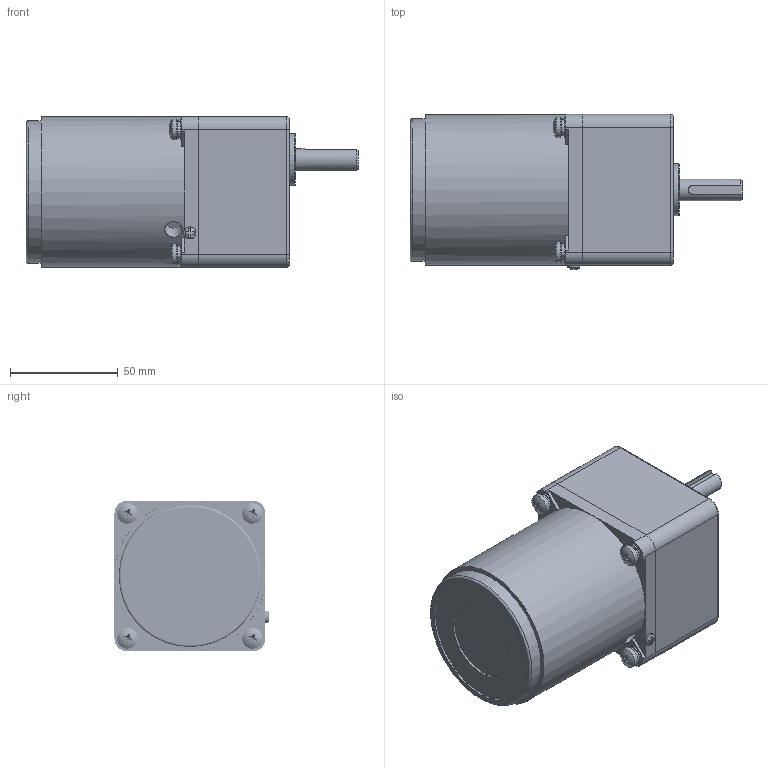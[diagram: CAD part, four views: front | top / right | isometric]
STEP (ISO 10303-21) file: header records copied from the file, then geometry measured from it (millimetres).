
FILE_DESCRIPTION(/* description */ (''),/* implementation_level */ '2;1');
FILE_NAME(/* name */ '70高箱L-15W普通.stp',/* time_stamp */ '2022-10-31T09:32:10+08:00',/* author */ (''),/* organization */ (''),/* preprocessor_version */ 'ST-DEVELOPER v16.7',/* originating_system */ 'SIEMENS PLM Software NX 1899',/* authorisation */ '');
FILE_SCHEMA (('AP203_CONFIGURATION_CONTROLLED_3D_DESIGN_OF_MECHANICAL_PARTS_AND_ASSEMBLIES_MIM_LF { 1 0 10303 403 2 1 2}'));
Products named in the file (1): yf186188FEB6lc9e
Bounding box: 154 x 71.94 x 70 mm (x, y, z)
Volume: 517034 mm3; surface area: 58796.7 mm2
Topology: 14 solids, 15 shells, 297 faces, 744 edges, 496 vertices
Faces by surface type: plane 120, bspline 88, cylinder 66, torus 11, cone 7, sphere 5
Full cylindrical faces by diameter (mm): 2.7 x1, 4.826 x4, 5 x4, 5.3 x4, 5.6 x1, 6 x5, 8.3 x1, 9 x4, 9.5 x4, 10 x1, 24 x1, 37 x1, 60 x1, 63 x1, 66 x1, 66.6 x2, 70 x1
Entity records: 68833 total; most frequent: CARTESIAN_POINT 62295, ORIENTED_EDGE 1308, DIRECTION 1037, EDGE_CURVE 654, VERTEX_POINT 460, AXIS2_PLACEMENT_3D 429, EDGE_LOOP 393, ADVANCED_FACE 297
